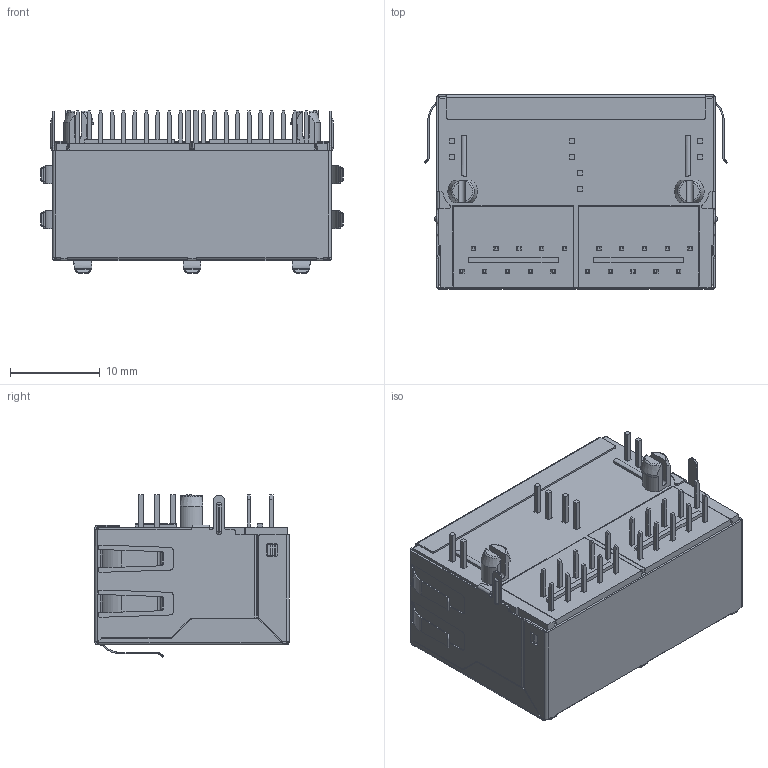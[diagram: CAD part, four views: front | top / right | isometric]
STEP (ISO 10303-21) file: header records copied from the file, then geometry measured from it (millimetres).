
FILE_DESCRIPTION((''),'2;1');
FILE_NAME('PRT0080','2024-11-04T',('hua'wei'),(''),'PRO/ENGINEER BY PARAMETRIC TECHNOLOGY CORPORATION, 2010480','PRO/ENGINEER BY PARAMETRIC TECHNOLOGY CORPORATION, 2010480','');
FILE_SCHEMA(('CONFIG_CONTROL_DESIGN'));
Products named in the file (1): PRT0080
Bounding box: 33.7 x 21.6 x 18.05 mm (x, y, z)
Volume: 6251.4 mm3; surface area: 8932.5 mm2
Topology: 1 solids, 7 shells, 2564 faces, 7470 edges, 4911 vertices
Faces by surface type: plane 1918, cylinder 632, bspline 4, torus 4, cone 4, sphere 2
Entity records: 84654 total; most frequent: CARTESIAN_POINT 16068, ORIENTED_EDGE 14940, DIRECTION 13512, EDGE_CURVE 7470, VECTOR 6022, LINE 6022, VERTEX_POINT 4911, AXIS2_PLACEMENT_3D 3745
